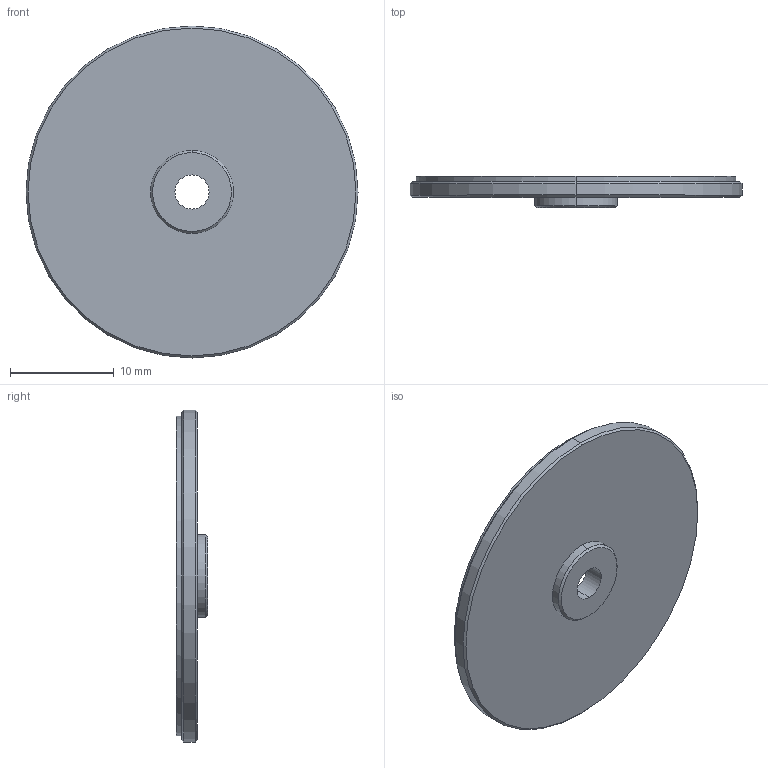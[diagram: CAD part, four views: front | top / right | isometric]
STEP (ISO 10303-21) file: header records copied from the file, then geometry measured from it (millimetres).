
FILE_DESCRIPTION (( 'STEP AP214' ), '1' );
FILE_NAME ('IRR-045-A22-AL_rev01.STEP', '2023-11-03T16:12:34', ( '' ), ( '' ), 'SwSTEP 2.0', 'SolidWorks 2021', '' );
FILE_SCHEMA (( 'AUTOMOTIVE_DESIGN' ));
Length unit declared in the file: millimetre
Products named in the file (1): IRR-045-A22-AL_rev01
Bounding box: 32 x 3 x 32 mm (x, y, z)
Volume: 1468.9 mm3; surface area: 2838.5 mm2
Topology: 2 solids, 2 shells, 30 faces, 64 edges, 40 vertices
Faces by surface type: cylinder 12, plane 10, cone 8
Entity records: 1199 total; most frequent: DIRECTION 160, CARTESIAN_POINT 135, ORIENTED_EDGE 128, AXIS2_PLACEMENT_3D 65, EDGE_CURVE 64, VERTEX_POINT 40, EDGE_LOOP 36, UNCERTAINTY_MEASURE_WITH_UNIT 34
